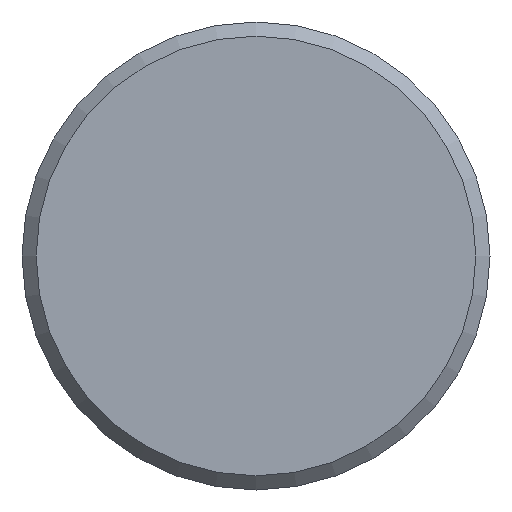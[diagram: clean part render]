
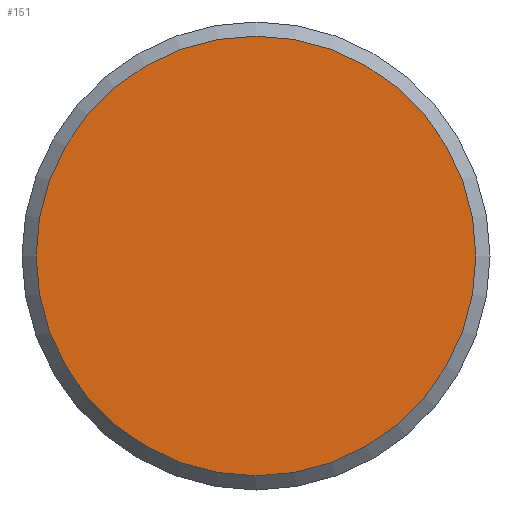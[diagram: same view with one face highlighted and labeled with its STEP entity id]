
A CAD part, left-side view. The second image highlights one B-rep face of the part: STEP entity #151.
In plain terms, the highlighted planar face has unit normal (-1, 0, 0).
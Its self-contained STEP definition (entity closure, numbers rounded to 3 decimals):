
#17=PLANE('',#189);
#26=FACE_OUTER_BOUND('',#37,.T.);
#37=EDGE_LOOP('',(#118));
#67=CIRCLE('',#190,15.5);
#79=VERTEX_POINT('',#275);
#93=EDGE_CURVE('',#79,#79,#67,.T.);
#118=ORIENTED_EDGE('',*,*,#93,.F.);
#151=ADVANCED_FACE('',(#26),#17,.T.);
#189=AXIS2_PLACEMENT_3D('',#274,#223,#224);
#190=AXIS2_PLACEMENT_3D('',#276,#225,#226);
#223=DIRECTION('center_axis',(-1.,0.,0.));
#224=DIRECTION('ref_axis',(0.,0.,1.));
#225=DIRECTION('center_axis',(1.,0.,0.));
#226=DIRECTION('ref_axis',(0.,0.,-1.));
#274=CARTESIAN_POINT('Origin',(0.,15.5,0.));
#275=CARTESIAN_POINT('',(0.,-15.5,0.));
#276=CARTESIAN_POINT('Origin',(0.,0.,0.));
